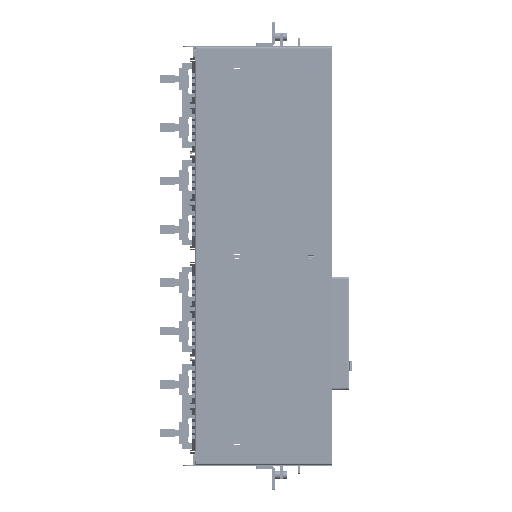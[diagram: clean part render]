
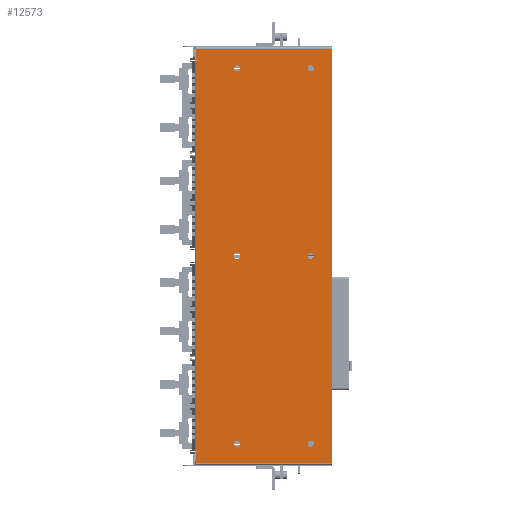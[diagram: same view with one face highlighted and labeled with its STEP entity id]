
A CAD part, front view. The second image highlights one B-rep face of the part: STEP entity #12573.
In plain terms, the highlighted planar face has unit normal (0, -1, 0).
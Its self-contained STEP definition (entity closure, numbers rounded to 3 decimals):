
#11043=DIRECTION('',(0.,0.,1.));
#11044=VECTOR('',#11043,2.2);
#11045=CARTESIAN_POINT('',(-763.2,-3.2,157.7));
#11046=LINE('',#11045,#11044);
#11055=CARTESIAN_POINT('',(-764.2,-3.2,159.9));
#11056=DIRECTION('',(0.,1.,0.));
#11057=DIRECTION('',(0.,0.,1.));
#11058=AXIS2_PLACEMENT_3D('',#11055,#11056,#11057);
#11060=DIRECTION('',(1.,0.,0.));
#11061=VECTOR('',#11060,4.);
#11062=CARTESIAN_POINT('',(-763.2,-3.2,157.7));
#11063=LINE('',#11062,#11061);
#11064=DIRECTION('',(0.,0.,1.));
#11065=VECTOR('',#11064,2.7);
#11066=CARTESIAN_POINT('',(-759.2,-3.2,157.7));
#11067=LINE('',#11066,#11065);
#11068=DIRECTION('',(0.,0.,-1.));
#11069=VECTOR('',#11068,2.7);
#11070=CARTESIAN_POINT('',(162.,-3.2,160.4));
#11071=LINE('',#11070,#11069);
#11072=DIRECTION('',(1.,0.,0.));
#11073=VECTOR('',#11072,4.);
#11074=CARTESIAN_POINT('',(162.,-3.2,157.7));
#11075=LINE('',#11074,#11073);
#11076=DIRECTION('',(0.,0.,1.));
#11077=VECTOR('',#11076,2.2);
#11078=CARTESIAN_POINT('',(166.,-3.2,157.7));
#11079=LINE('',#11078,#11077);
#11080=CARTESIAN_POINT('',(167.,-3.2,159.9));
#11081=DIRECTION('',(0.,1.,0.));
#11082=DIRECTION('',(-1.,0.,0.));
#11083=AXIS2_PLACEMENT_3D('',#11080,#11081,#11082);
#11085=DIRECTION('',(-1.,0.,0.));
#11086=VECTOR('',#11085,982.4);
#11087=CARTESIAN_POINT('',(192.6,-3.2,-160.9));
#11088=LINE('',#11087,#11086);
#11089=CARTESIAN_POINT('',(146.4,-3.2,64.1));
#11090=DIRECTION('',(0.,-1.,0.));
#11091=DIRECTION('',(-1.,0.,0.));
#11092=AXIS2_PLACEMENT_3D('',#11089,#11090,#11091);
#11094=CARTESIAN_POINT('',(146.4,-3.2,64.1));
#11095=DIRECTION('',(0.,-1.,0.));
#11096=DIRECTION('',(1.,0.,0.));
#11097=AXIS2_PLACEMENT_3D('',#11094,#11095,#11096);
#11099=CARTESIAN_POINT('',(-743.6,-3.2,64.1));
#11100=DIRECTION('',(0.,-1.,0.));
#11101=DIRECTION('',(-1.,0.,0.));
#11102=AXIS2_PLACEMENT_3D('',#11099,#11100,#11101);
#11104=CARTESIAN_POINT('',(-743.6,-3.2,64.1));
#11105=DIRECTION('',(0.,-1.,0.));
#11106=DIRECTION('',(1.,0.,0.));
#11107=AXIS2_PLACEMENT_3D('',#11104,#11105,#11106);
#11109=CARTESIAN_POINT('',(-298.6,-3.2,64.1));
#11110=DIRECTION('',(0.,-1.,0.));
#11111=DIRECTION('',(-1.,0.,0.));
#11112=AXIS2_PLACEMENT_3D('',#11109,#11110,#11111);
#11114=CARTESIAN_POINT('',(-298.6,-3.2,64.1));
#11115=DIRECTION('',(0.,-1.,0.));
#11116=DIRECTION('',(1.,0.,0.));
#11117=AXIS2_PLACEMENT_3D('',#11114,#11115,#11116);
#11119=CARTESIAN_POINT('',(146.4,-3.2,-110.9));
#11120=DIRECTION('',(0.,-1.,0.));
#11121=DIRECTION('',(-1.,0.,0.));
#11122=AXIS2_PLACEMENT_3D('',#11119,#11120,#11121);
#11124=CARTESIAN_POINT('',(146.4,-3.2,-110.9));
#11125=DIRECTION('',(0.,-1.,0.));
#11126=DIRECTION('',(1.,0.,0.));
#11127=AXIS2_PLACEMENT_3D('',#11124,#11125,#11126);
#11129=CARTESIAN_POINT('',(-298.6,-3.2,-110.9));
#11130=DIRECTION('',(0.,-1.,0.));
#11131=DIRECTION('',(-1.,0.,0.));
#11132=AXIS2_PLACEMENT_3D('',#11129,#11130,#11131);
#11134=CARTESIAN_POINT('',(-298.6,-3.2,-110.9));
#11135=DIRECTION('',(0.,-1.,0.));
#11136=DIRECTION('',(1.,0.,0.));
#11137=AXIS2_PLACEMENT_3D('',#11134,#11135,#11136);
#11139=CARTESIAN_POINT('',(-743.6,-3.2,-110.9));
#11140=DIRECTION('',(0.,-1.,0.));
#11141=DIRECTION('',(-1.,0.,0.));
#11142=AXIS2_PLACEMENT_3D('',#11139,#11140,#11141);
#11144=CARTESIAN_POINT('',(-743.6,-3.2,-110.9));
#11145=DIRECTION('',(0.,-1.,0.));
#11146=DIRECTION('',(1.,0.,0.));
#11147=AXIS2_PLACEMENT_3D('',#11144,#11145,#11146);
#11171=DIRECTION('',(-1.,0.,0.));
#11172=VECTOR('',#11171,921.2);
#11173=CARTESIAN_POINT('',(162.,-3.2,160.4));
#11174=LINE('',#11173,#11172);
#11299=DIRECTION('',(-1.,0.,0.));
#11300=VECTOR('',#11299,25.6);
#11301=CARTESIAN_POINT('',(192.6,-3.2,160.9));
#11302=LINE('',#11301,#11300);
#11505=DIRECTION('',(0.,0.,1.));
#11506=VECTOR('',#11505,321.8);
#11507=CARTESIAN_POINT('',(192.6,-3.2,-160.9));
#11508=LINE('',#11507,#11506);
#11615=DIRECTION('',(0.,0.,-1.));
#11616=VECTOR('',#11615,321.8);
#11617=CARTESIAN_POINT('',(-789.8,-3.2,160.9));
#11618=LINE('',#11617,#11616);
#11746=DIRECTION('',(-1.,0.,0.));
#11747=VECTOR('',#11746,25.6);
#11748=CARTESIAN_POINT('',(-764.2,-3.2,160.9));
#11749=LINE('',#11748,#11747);
#11874=CARTESIAN_POINT('',(-789.8,-3.2,-160.9));
#11875=VERTEX_POINT('',#11874);
#11876=CARTESIAN_POINT('',(192.6,-3.2,-160.9));
#11877=VERTEX_POINT('',#11876);
#12008=CARTESIAN_POINT('',(-763.2,-3.2,159.9));
#12009=VERTEX_POINT('',#12008);
#12010=CARTESIAN_POINT('',(-764.2,-3.2,160.9));
#12011=VERTEX_POINT('',#12010);
#12012=CARTESIAN_POINT('',(-763.2,-3.2,157.7));
#12013=VERTEX_POINT('',#12012);
#12014=CARTESIAN_POINT('',(-759.2,-3.2,157.7));
#12015=VERTEX_POINT('',#12014);
#12016=CARTESIAN_POINT('',(-759.2,-3.2,160.4));
#12017=VERTEX_POINT('',#12016);
#12018=CARTESIAN_POINT('',(162.,-3.2,160.4));
#12019=VERTEX_POINT('',#12018);
#12020=CARTESIAN_POINT('',(162.,-3.2,157.7));
#12021=VERTEX_POINT('',#12020);
#12022=CARTESIAN_POINT('',(166.,-3.2,157.7));
#12023=VERTEX_POINT('',#12022);
#12024=CARTESIAN_POINT('',(166.,-3.2,159.9));
#12025=VERTEX_POINT('',#12024);
#12026=CARTESIAN_POINT('',(167.,-3.2,160.9));
#12027=VERTEX_POINT('',#12026);
#12028=CARTESIAN_POINT('',(192.6,-3.2,160.9));
#12029=VERTEX_POINT('',#12028);
#12030=CARTESIAN_POINT('',(-789.8,-3.2,160.9));
#12031=VERTEX_POINT('',#12030);
#12032=CARTESIAN_POINT('',(139.4,-3.2,64.1));
#12033=CARTESIAN_POINT('',(153.4,-3.2,64.1));
#12034=VERTEX_POINT('',#12032);
#12035=VERTEX_POINT('',#12033);
#12036=CARTESIAN_POINT('',(-750.6,-3.2,64.1));
#12037=CARTESIAN_POINT('',(-736.6,-3.2,64.1));
#12038=VERTEX_POINT('',#12036);
#12039=VERTEX_POINT('',#12037);
#12040=CARTESIAN_POINT('',(-305.6,-3.2,64.1));
#12041=CARTESIAN_POINT('',(-291.6,-3.2,64.1));
#12042=VERTEX_POINT('',#12040);
#12043=VERTEX_POINT('',#12041);
#12044=CARTESIAN_POINT('',(139.4,-3.2,-110.9));
#12045=CARTESIAN_POINT('',(153.4,-3.2,-110.9));
#12046=VERTEX_POINT('',#12044);
#12047=VERTEX_POINT('',#12045);
#12048=CARTESIAN_POINT('',(-305.6,-3.2,-110.9));
#12049=CARTESIAN_POINT('',(-291.6,-3.2,-110.9));
#12050=VERTEX_POINT('',#12048);
#12051=VERTEX_POINT('',#12049);
#12052=CARTESIAN_POINT('',(-750.6,-3.2,-110.9));
#12053=CARTESIAN_POINT('',(-736.6,-3.2,-110.9));
#12054=VERTEX_POINT('',#12052);
#12055=VERTEX_POINT('',#12053);
#12506=CARTESIAN_POINT('',(-793.5,-3.2,-160.9));
#12507=DIRECTION('',(0.,-1.,0.));
#12508=DIRECTION('',(1.,0.,0.));
#12509=AXIS2_PLACEMENT_3D('',#12506,#12507,#12508);
#12510=PLANE('',#12509);
#12511=ORIENTED_EDGE('',*,*,#12471,.T.);
#12512=ORIENTED_EDGE('',*,*,#12487,.F.);
#12513=ORIENTED_EDGE('',*,*,#12497,.T.);
#12515=ORIENTED_EDGE('',*,*,#12514,.T.);
#12517=ORIENTED_EDGE('',*,*,#12516,.F.);
#12519=ORIENTED_EDGE('',*,*,#12518,.T.);
#12521=ORIENTED_EDGE('',*,*,#12520,.T.);
#12523=ORIENTED_EDGE('',*,*,#12522,.T.);
#12525=ORIENTED_EDGE('',*,*,#12524,.T.);
#12527=ORIENTED_EDGE('',*,*,#12526,.F.);
#12529=ORIENTED_EDGE('',*,*,#12528,.F.);
#12530=ORIENTED_EDGE('',*,*,#12207,.T.);
#12532=ORIENTED_EDGE('',*,*,#12531,.F.);
#12534=ORIENTED_EDGE('',*,*,#12533,.F.);
#12535=EDGE_LOOP('',(#12511,#12512,#12513,#12515,#12517,#12519,#12521,#12523,
#12525,#12527,#12529,#12530,#12532,#12534));
#12536=FACE_OUTER_BOUND('',#12535,.F.);
#12538=ORIENTED_EDGE('',*,*,#12537,.T.);
#12540=ORIENTED_EDGE('',*,*,#12539,.T.);
#12541=EDGE_LOOP('',(#12538,#12540));
#12542=FACE_BOUND('',#12541,.F.);
#12544=ORIENTED_EDGE('',*,*,#12543,.T.);
#12546=ORIENTED_EDGE('',*,*,#12545,.T.);
#12547=EDGE_LOOP('',(#12544,#12546));
#12548=FACE_BOUND('',#12547,.F.);
#12550=ORIENTED_EDGE('',*,*,#12549,.T.);
#12552=ORIENTED_EDGE('',*,*,#12551,.T.);
#12553=EDGE_LOOP('',(#12550,#12552));
#12554=FACE_BOUND('',#12553,.F.);
#12556=ORIENTED_EDGE('',*,*,#12555,.T.);
#12558=ORIENTED_EDGE('',*,*,#12557,.T.);
#12559=EDGE_LOOP('',(#12556,#12558));
#12560=FACE_BOUND('',#12559,.F.);
#12562=ORIENTED_EDGE('',*,*,#12561,.T.);
#12564=ORIENTED_EDGE('',*,*,#12563,.T.);
#12565=EDGE_LOOP('',(#12562,#12564));
#12566=FACE_BOUND('',#12565,.F.);
#12568=ORIENTED_EDGE('',*,*,#12567,.T.);
#12570=ORIENTED_EDGE('',*,*,#12569,.T.);
#12571=EDGE_LOOP('',(#12568,#12570));
#12572=FACE_BOUND('',#12571,.F.);
#12573=ADVANCED_FACE('',(#12536,#12542,#12548,#12554,#12560,#12566,#12572),
#12510,.T.);
#11059=CIRCLE('',#11058,1.);
#11084=CIRCLE('',#11083,1.);
#11093=CIRCLE('',#11092,7.);
#11098=CIRCLE('',#11097,7.);
#11103=CIRCLE('',#11102,7.);
#11108=CIRCLE('',#11107,7.);
#11113=CIRCLE('',#11112,7.);
#11118=CIRCLE('',#11117,7.);
#11123=CIRCLE('',#11122,7.);
#11128=CIRCLE('',#11127,7.);
#11133=CIRCLE('',#11132,7.);
#11138=CIRCLE('',#11137,7.);
#11143=CIRCLE('',#11142,7.);
#11148=CIRCLE('',#11147,7.);
#12207=EDGE_CURVE('',#11877,#11875,#11088,.T.);
#12471=EDGE_CURVE('',#12011,#12009,#11059,.T.);
#12487=EDGE_CURVE('',#12013,#12009,#11046,.T.);
#12497=EDGE_CURVE('',#12013,#12015,#11063,.T.);
#12514=EDGE_CURVE('',#12015,#12017,#11067,.T.);
#12516=EDGE_CURVE('',#12019,#12017,#11174,.T.);
#12518=EDGE_CURVE('',#12019,#12021,#11071,.T.);
#12520=EDGE_CURVE('',#12021,#12023,#11075,.T.);
#12522=EDGE_CURVE('',#12023,#12025,#11079,.T.);
#12524=EDGE_CURVE('',#12025,#12027,#11084,.T.);
#12526=EDGE_CURVE('',#12029,#12027,#11302,.T.);
#12528=EDGE_CURVE('',#11877,#12029,#11508,.T.);
#12531=EDGE_CURVE('',#12031,#11875,#11618,.T.);
#12533=EDGE_CURVE('',#12011,#12031,#11749,.T.);
#12537=EDGE_CURVE('',#12034,#12035,#11093,.T.);
#12539=EDGE_CURVE('',#12035,#12034,#11098,.T.);
#12543=EDGE_CURVE('',#12038,#12039,#11103,.T.);
#12545=EDGE_CURVE('',#12039,#12038,#11108,.T.);
#12549=EDGE_CURVE('',#12042,#12043,#11113,.T.);
#12551=EDGE_CURVE('',#12043,#12042,#11118,.T.);
#12555=EDGE_CURVE('',#12046,#12047,#11123,.T.);
#12557=EDGE_CURVE('',#12047,#12046,#11128,.T.);
#12561=EDGE_CURVE('',#12050,#12051,#11133,.T.);
#12563=EDGE_CURVE('',#12051,#12050,#11138,.T.);
#12567=EDGE_CURVE('',#12054,#12055,#11143,.T.);
#12569=EDGE_CURVE('',#12055,#12054,#11148,.T.);
